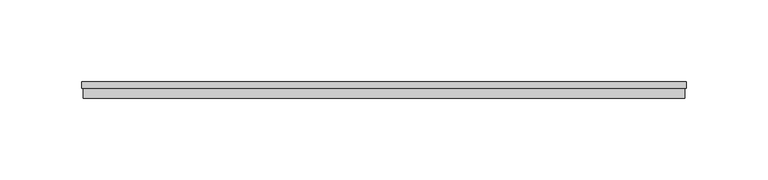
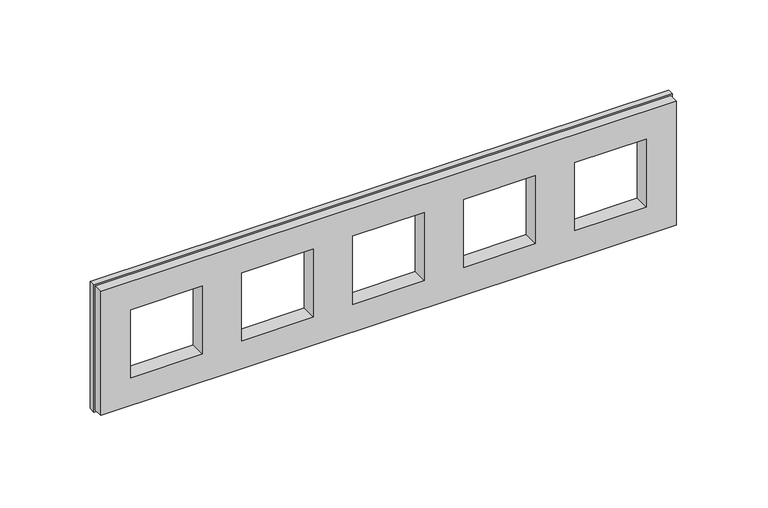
"""IFC4 building model written with IfcOpenShell, lengths in millimetres: proxy geometry, IEK_Skandy_Рамка : x5_SK-F35Bl."""

from ifc_helpers import new_model, si_unit, origin, place, context, project, spatial, faceted_brep, source, transform, mapped, element, save


def electrical_fixtures_7349d3a5(model_context):
    return source(origin(), model_context, "Body", "Brep", [
        faceted_brep([(23.0, 10.0, 23.0), (23.0, 0.0, 23.0), (-23.0, 0.0, 23.0), (-23.0, 10.0, 23.0), (23.0, 10.0, -23.0), (23.0, 0.0, -23.0), (-23.0, 10.0, -23.0), (-23.0, 0.0, -23.0), (-326.0, 0.0, 42.0), (-326.0, 0.0, -42.0), (42.0, 0.0, -42.0), (42.0, 0.0, 42.0), (-165.0, 0.0, 23.0), (-119.0, 0.0, 23.0), (-119.0, 0.0, -23.0), (-165.0, 0.0, -23.0), (-236.0, 0.0, 23.0), (-190.0, 0.0, 23.0), (-190.0, 0.0, -23.0), (-236.0, 0.0, -23.0), (-307.0, 0.0, 23.0), (-261.0, 0.0, 23.0), (-261.0, 0.0, -23.0), (-307.0, 0.0, -23.0), (-94.0, 0.0, 23.0), (-48.0, 0.0, 23.0), (-48.0, 0.0, -23.0), (-94.0, 0.0, -23.0), (-326.0, 6.0, 42.0), (-326.0, 6.0, -42.0), (42.0, 6.0, -42.0), (42.0, 6.0, 42.0), (-119.0, 10.0, 23.0), (-165.0, 10.0, 23.0), (-119.0, 10.0, -23.0), (-165.0, 10.0, -23.0), (-190.0, 10.0, 23.0), (-236.0, 10.0, 23.0), (-190.0, 10.0, -23.0), (-236.0, 10.0, -23.0), (-261.0, 10.0, 23.0), (-307.0, 10.0, 23.0), (-261.0, 10.0, -23.0), (-307.0, 10.0, -23.0), (-48.0, 10.0, 23.0), (-94.0, 10.0, 23.0), (-48.0, 10.0, -23.0), (-94.0, 10.0, -23.0), (-327.0, 6.0, 43.0), (-327.0, 6.0, -43.0), (43.0, 6.0, -43.0), (43.0, 6.0, 43.0), (-327.0, 10.0, 43.0), (-327.0, 10.0, -43.0), (43.0, 10.0, -43.0), (43.0, 10.0, 43.0)], [[[0, 1, 2, 3]], [[1, 0, 4, 5]], [[5, 4, 6, 7]], [[3, 2, 7, 6]], [[8, 9, 10, 11], [2, 1, 5, 7], [12, 13, 14, 15], [16, 17, 18, 19], [20, 21, 22, 23], [24, 25, 26, 27]], [[9, 8, 28, 29]], [[10, 9, 29, 30]], [[11, 10, 30, 31]], [[8, 11, 31, 28]], [[32, 13, 12, 33]], [[13, 32, 34, 14]], [[14, 34, 35, 15]], [[33, 12, 15, 35]], [[36, 17, 16, 37]], [[17, 36, 38, 18]], [[18, 38, 39, 19]], [[37, 16, 19, 39]], [[40, 21, 20, 41]], [[21, 40, 42, 22]], [[22, 42, 43, 23]], [[41, 20, 23, 43]], [[44, 25, 24, 45]], [[25, 44, 46, 26]], [[26, 46, 47, 27]], [[45, 24, 27, 47]], [[48, 49, 50, 51], [29, 28, 31, 30]], [[49, 48, 52, 53]], [[50, 49, 53, 54]], [[51, 50, 54, 55]], [[48, 51, 55, 52]], [[52, 55, 54, 53], [0, 3, 6, 4], [32, 33, 35, 34], [36, 37, 39, 38], [40, 41, 43, 42], [44, 45, 47, 46]]]),
    ])


if __name__ == "__main__":
    model = new_model("IFC4")
    model_context = context("Model", 3, world=origin())
    ifc_project = project(units=[si_unit("LENGTHUNIT", "METRE", prefix="MILLI")], contexts=[model_context])
    site = spatial("IfcSite", under=ifc_project)
    building = spatial("IfcBuilding", under=site)
    placement = place(None, origin())
    electrical_fixtures_shape = electrical_fixtures_7349d3a5(model_context)
    element("IfcBuildingElementProxy", 1, Name="IEK_Skandy_Рамка : x5_SK-F35Bl", ObjectType="IEK_Skandy_Рамка : x5_SK-F35Bl", at=placement, inside=building, context=model_context, shape_type="MappedRepresentation", body=[
        mapped(electrical_fixtures_shape, transform((0.0, 0.0, 0.0), x_axis=(1.0, 0.0, 0.0), y_axis=(0.0, 1.0, 0.0), z_axis=(0.0, 0.0, 1.0))),
    ])
    save(model, "model.ifc")
